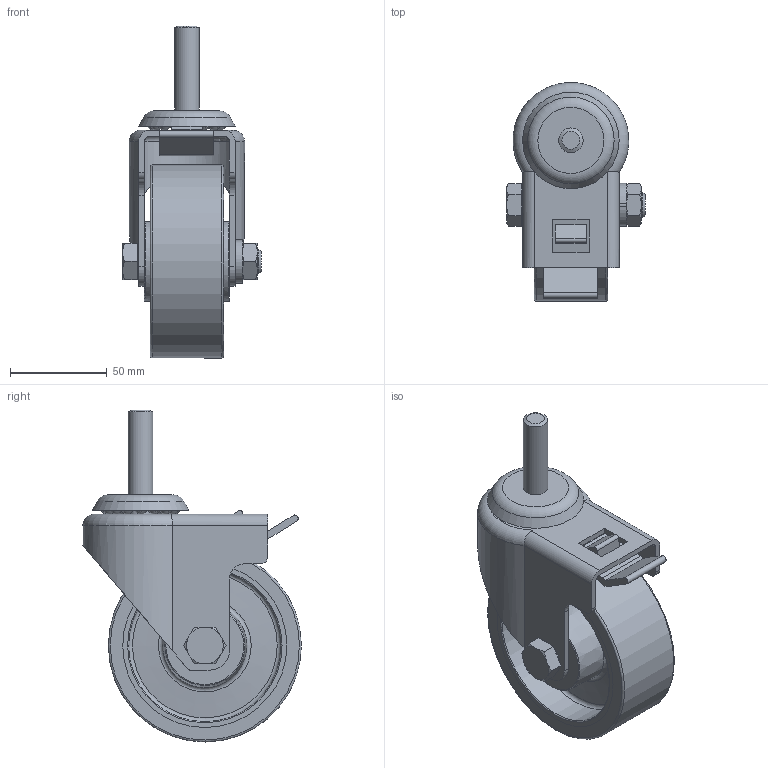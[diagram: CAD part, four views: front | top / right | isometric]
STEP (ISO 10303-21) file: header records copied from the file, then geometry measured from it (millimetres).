
FILE_DESCRIPTION(/* description */ (''),/* implementation_level */ '2;1');
FILE_NAME(/* name */ 'D:\Adilson\Documents\Inventor\Reator_Ouro\RodizioGH414BPNDA\GH414BPNDA.stp',/* time_stamp */ '2020-08-22T19:00:19-03:00',/* author */ ('Adilson'),/* organization */ (''),/* preprocessor_version */ 'ST-DEVELOPER v18',/* originating_system */ 'Autodesk Inventor 2020',/* authorisation */ '');
FILE_SCHEMA (('AUTOMOTIVE_DESIGN { 1 0 10303 214 3 1 1 }'));
Length unit declared in the file: millimetre
Products named in the file (12): GH414BPNDA; BaseTrava; Aro; Bandarodagem; Bucha; BaseParf; Esfera; ParFix; AS 2465 - 1/2 x 2 1/2  UNC; ASME B18.21.1 - 1/2; ANSI B18.2.2 - 1/2 - 13; Trava
Assembly tree (26 placements, depth 2):
  GH414BPNDA
    BaseTrava
    Aro
    Bucha  x2
    Bandarodagem
    BaseParf
    Esfera  x15
    ParFix
    AS 2465 - 1/2 x 2 1/2  UNC
    ASME B18.21.1 - 1/2
    ANSI B18.2.2 - 1/2 - 13
    Trava
Bounding box: 71.7 x 113.3 x 172 mm (x, y, z)
Volume: 265711.1 mm3; surface area: 129050.1 mm2
Topology: 26 solids, 26 shells, 196 faces, 496 edges, 338 vertices
Faces by surface type: plane 91, cylinder 47, cone 29, sphere 15, torus 14
Full cylindrical faces by diameter (mm): 10.592 x1, 12.7 x8, 14 x1, 19.05 x1, 25.4 x4, 79 x2, 85 x4, 89 x4, 94 x2, 100 x1
Entity records: 6095 total; most frequent: CARTESIAN_POINT 1090, DIRECTION 1051, ORIENTED_EDGE 884, EDGE_CURVE 442, AXIS2_PLACEMENT_3D 435, VERTEX_POINT 302, CIRCLE 217, EDGE_LOOP 212
